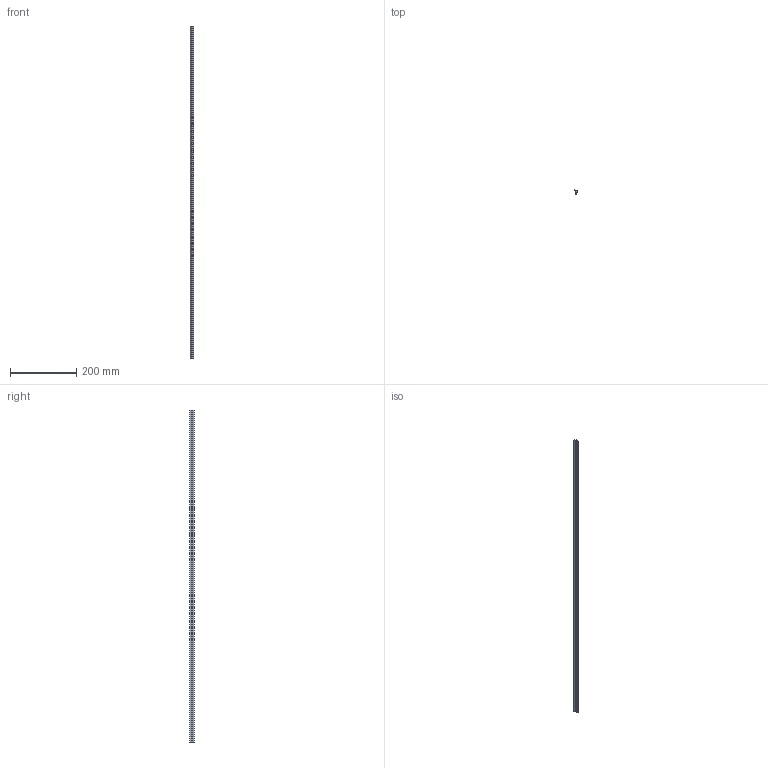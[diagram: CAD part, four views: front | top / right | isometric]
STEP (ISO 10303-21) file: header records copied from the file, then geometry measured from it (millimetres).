
FILE_DESCRIPTION (( 'STEP AP214' ), '1' );
FILE_NAME ('SF05004.step', '2024-12-03T16:29:52', ( '' ), ( '' ), 'SwSTEP 2.0', 'SolidWorks 2023', '' );
FILE_SCHEMA (( 'AUTOMOTIVE_DESIGN' ));
Length unit declared in the file: millimetre
Products named in the file (1): SF05004
Bounding box: 9.34 x 12.61 x 1000 mm (x, y, z)
Volume: 43143.1 mm3; surface area: 42078 mm2
Topology: 1 solids, 1 shells, 24 faces, 66 edges, 44 vertices
Faces by surface type: plane 13, cylinder 11
Entity records: 795 total; most frequent: DIRECTION 138, CARTESIAN_POINT 135, ORIENTED_EDGE 132, EDGE_CURVE 66, AXIS2_PLACEMENT_3D 47, VERTEX_POINT 44, LINE 44, VECTOR 44
